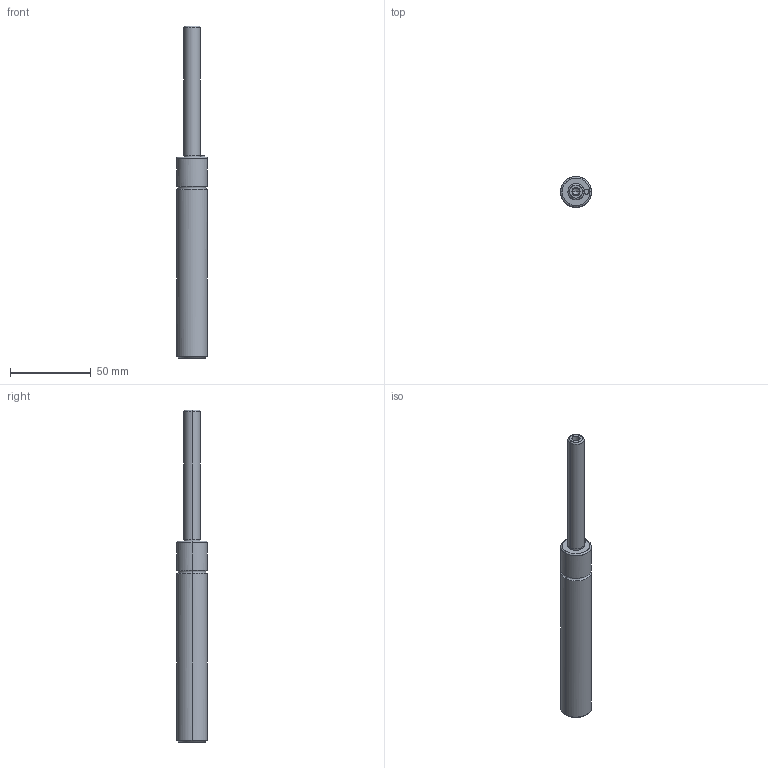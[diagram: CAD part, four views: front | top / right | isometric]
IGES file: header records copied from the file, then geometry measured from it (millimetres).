
Global section: file name: E:\UnigraphicsGraphicData\MISUMI_PRESS-PARTS\IGES\3d_mgsa19-80_04555_r00.igs; native system: NX V5.0; preprocessor: UGS NX IGES V5.0; author: MISUMI; date: 20110105.161432; units: millimetre
Bounding box: 19 x 18.96 x 205 mm (x, y, z)
Surface area: 10789.5 mm2 (no closed solid volume)
Topology: 0 solids, 0 shells, 36 faces, 216 edges, 211 vertices
Faces by surface type: bspline 36
